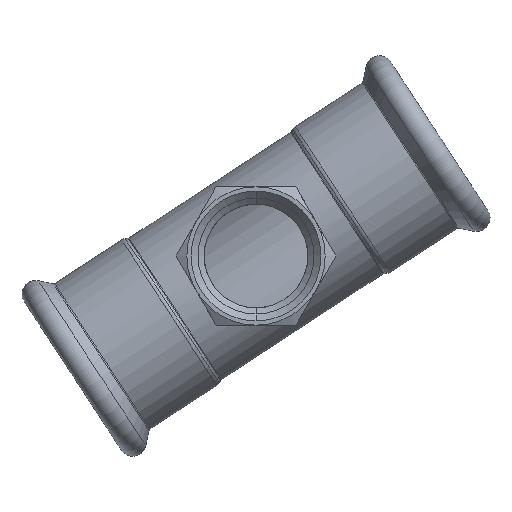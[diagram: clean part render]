
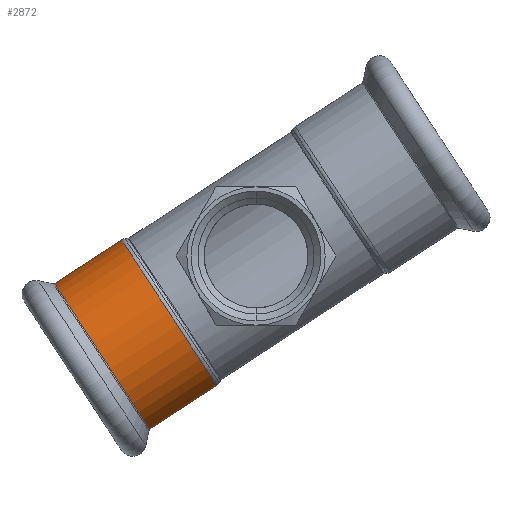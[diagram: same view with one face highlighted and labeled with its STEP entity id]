
A CAD part, front view. The second image highlights one B-rep face of the part: STEP entity #2872.
In plain terms, the highlighted cylindrical face has radius 22.65 mm (diameter 45.3 mm), a partial arc.
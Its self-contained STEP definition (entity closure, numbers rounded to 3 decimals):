
#46 = DIRECTION ( 'NONE',  ( -1., 0., 0. ) ) ;
#215 = DIRECTION ( 'NONE',  ( -1., 0., 0. ) ) ;
#367 = DIRECTION ( 'NONE',  ( -1., 0., 0. ) ) ;
#426 = LINE ( 'NONE', #1221, #530 ) ;
#436 = FACE_OUTER_BOUND ( 'NONE', #2708, .T. ) ;
#530 = VECTOR ( 'NONE', #921, 1000. ) ;
#779 = VERTEX_POINT ( 'NONE', #2566 ) ;
#921 = DIRECTION ( 'NONE',  ( -1., 0., 0. ) ) ;
#1019 = CARTESIAN_POINT ( 'NONE',  ( 27., 0., 0. ) ) ;
#1060 = VERTEX_POINT ( 'NONE', #2023 ) ;
#1063 = CIRCLE ( 'NONE', #3250, 22.65 ) ;
#1221 = CARTESIAN_POINT ( 'NONE',  ( 27.146, 0., 22.65 ) ) ;
#1345 = DIRECTION ( 'NONE',  ( 0., 0., 1. ) ) ;
#1382 = CARTESIAN_POINT ( 'NONE',  ( 27.146, 0., 0. ) ) ;
#1488 = DIRECTION ( 'NONE',  ( 0., 0., 1. ) ) ;
#1649 = CARTESIAN_POINT ( 'NONE',  ( 27., 0., -22.65 ) ) ;
#1690 = DIRECTION ( 'NONE',  ( 0., 0., 1. ) ) ;
#1724 = DIRECTION ( 'NONE',  ( -1., 0., 0. ) ) ;
#1740 = CARTESIAN_POINT ( 'NONE',  ( 27.146, 0., -22.65 ) ) ;
#1808 = VERTEX_POINT ( 'NONE', #2177 ) ;
#2023 = CARTESIAN_POINT ( 'NONE',  ( 47.843, 0., -22.65 ) ) ;
#2133 = EDGE_CURVE ( 'NONE', #1808, #779, #426, .T. ) ;
#2177 = CARTESIAN_POINT ( 'NONE',  ( 47.843, 0., 22.65 ) ) ;
#2398 = AXIS2_PLACEMENT_3D ( 'NONE', #3801, #215, #1488 ) ;
#2473 = EDGE_CURVE ( 'NONE', #779, #3973, #1063, .T. ) ;
#2566 = CARTESIAN_POINT ( 'NONE',  ( 27., 0., 22.65 ) ) ;
#2708 = EDGE_LOOP ( 'NONE', ( #2775, #3328, #3015, #3146 ) ) ;
#2775 = ORIENTED_EDGE ( 'NONE', *, *, #3109, .T. ) ;
#2851 = EDGE_CURVE ( 'NONE', #1060, #3973, #3239, .T. ) ;
#2872 = ADVANCED_FACE ( 'NONE', ( #436 ), #3090, .T. ) ;
#3015 = ORIENTED_EDGE ( 'NONE', *, *, #2473, .F. ) ;
#3090 = CYLINDRICAL_SURFACE ( 'NONE', #4111, 22.65 ) ;
#3109 = EDGE_CURVE ( 'NONE', #1808, #1060, #3558, .T. ) ;
#3146 = ORIENTED_EDGE ( 'NONE', *, *, #2133, .F. ) ;
#3239 = LINE ( 'NONE', #1740, #4179 ) ;
#3250 = AXIS2_PLACEMENT_3D ( 'NONE', #1019, #46, #1690 ) ;
#3328 = ORIENTED_EDGE ( 'NONE', *, *, #2851, .T. ) ;
#3558 = CIRCLE ( 'NONE', #2398, 22.65 ) ;
#3801 = CARTESIAN_POINT ( 'NONE',  ( 47.843, 0., 0. ) ) ;
#3973 = VERTEX_POINT ( 'NONE', #1649 ) ;
#4111 = AXIS2_PLACEMENT_3D ( 'NONE', #1382, #1724, #1345 ) ;
#4179 = VECTOR ( 'NONE', #367, 1000. ) ;
